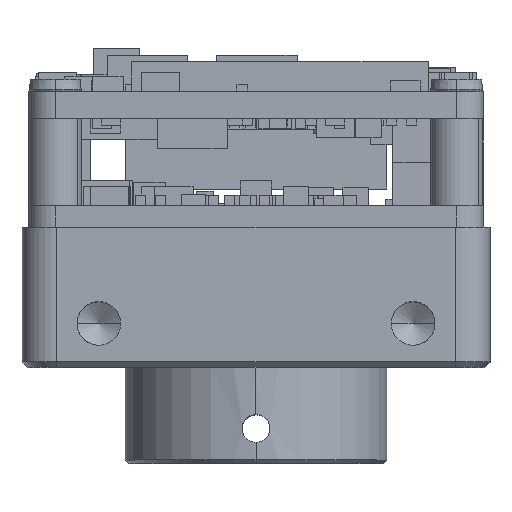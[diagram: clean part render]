
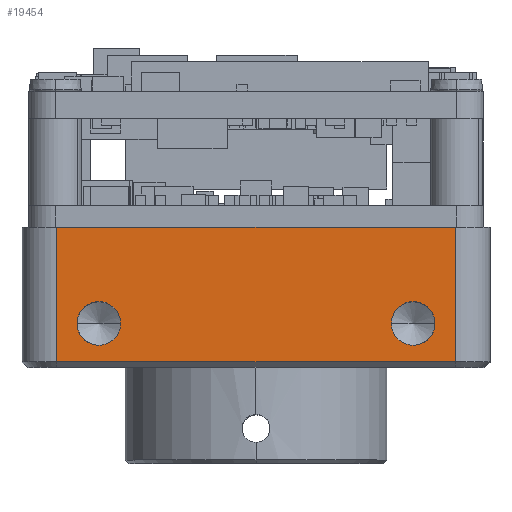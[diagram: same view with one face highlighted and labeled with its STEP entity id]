
A CAD part, top view. The second image highlights one B-rep face of the part: STEP entity #19454.
In plain terms, the highlighted planar face has unit normal (0, 0, 1).
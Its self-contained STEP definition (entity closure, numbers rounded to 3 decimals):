
#3181 = VECTOR ( 'NONE', #36196, 1000. ) ;
#3589 = EDGE_CURVE ( 'NONE', #35073, #9408, #5402, .T. ) ;
#3856 = EDGE_LOOP ( 'NONE', ( #34701, #58214 ) ) ;
#5402 = CIRCLE ( 'NONE', #30890, 1.25 ) ;
#6481 = AXIS2_PLACEMENT_3D ( 'NONE', #18900, #57363, #7642 ) ;
#6947 = DIRECTION ( 'NONE',  ( 1., 0., 0. ) ) ;
#6958 = EDGE_LOOP ( 'NONE', ( #9797, #40985 ) ) ;
#7642 = DIRECTION ( 'NONE',  ( 1., 0., 0. ) ) ;
#7673 = EDGE_CURVE ( 'NONE', #8409, #9359, #41732, .T. ) ;
#8409 = VERTEX_POINT ( 'NONE', #9865 ) ;
#8833 = VERTEX_POINT ( 'NONE', #62437 ) ;
#9359 = VERTEX_POINT ( 'NONE', #52953 ) ;
#9408 = VERTEX_POINT ( 'NONE', #33273 ) ;
#9779 = AXIS2_PLACEMENT_3D ( 'NONE', #37573, #48863, #54995 ) ;
#9797 = ORIENTED_EDGE ( 'NONE', *, *, #3589, .F. ) ;
#9865 = CARTESIAN_POINT ( 'NONE',  ( -11.4, 0.3, 13.4 ) ) ;
#9998 = ORIENTED_EDGE ( 'NONE', *, *, #7673, .T. ) ;
#10038 = LINE ( 'NONE', #32191, #71404 ) ;
#10397 = CARTESIAN_POINT ( 'NONE',  ( -13.4, 0.3, 13.4 ) ) ;
#11650 = EDGE_LOOP ( 'NONE', ( #28222, #9998, #15122, #58205 ) ) ;
#11740 = CARTESIAN_POINT ( 'NONE',  ( -13.4, 8., 13.4 ) ) ;
#12376 = DIRECTION ( 'NONE',  ( 0., 0., 1. ) ) ;
#14055 = LINE ( 'NONE', #35834, #3181 ) ;
#14520 = EDGE_CURVE ( 'NONE', #44964, #54061, #48820, .T. ) ;
#15122 = ORIENTED_EDGE ( 'NONE', *, *, #48286, .T. ) ;
#16648 = AXIS2_PLACEMENT_3D ( 'NONE', #58485, #26202, #25836 ) ;
#17467 = CARTESIAN_POINT ( 'NONE',  ( -9., 2.5, 13.4 ) ) ;
#18900 = CARTESIAN_POINT ( 'NONE',  ( -9., 2.5, 13.4 ) ) ;
#19454 = ADVANCED_FACE ( 'NONE', ( #44106, #26711, #32490 ), #54304, .F. ) ;
#21300 = DIRECTION ( 'NONE',  ( 0., -1., 0. ) ) ;
#22854 = DIRECTION ( 'NONE',  ( 1., 0., 0. ) ) ;
#25035 = CIRCLE ( 'NONE', #6481, 1.25 ) ;
#25636 = AXIS2_PLACEMENT_3D ( 'NONE', #50113, #60960, #22854 ) ;
#25836 = DIRECTION ( 'NONE',  ( 1., 0., 0. ) ) ;
#26025 = EDGE_CURVE ( 'NONE', #8833, #69741, #56034, .T. ) ;
#26202 = DIRECTION ( 'NONE',  ( 0., 0., 1. ) ) ;
#26711 = FACE_OUTER_BOUND ( 'NONE', #11650, .T. ) ;
#28222 = ORIENTED_EDGE ( 'NONE', *, *, #65092, .T. ) ;
#29249 = CARTESIAN_POINT ( 'NONE',  ( 11.4, 8., 13.4 ) ) ;
#29509 = VECTOR ( 'NONE', #50990, 1000. ) ;
#30890 = AXIS2_PLACEMENT_3D ( 'NONE', #17467, #12376, #6947 ) ;
#32191 = CARTESIAN_POINT ( 'NONE',  ( -11.4, 8., 13.4 ) ) ;
#32490 = FACE_BOUND ( 'NONE', #6958, .T. ) ;
#33273 = CARTESIAN_POINT ( 'NONE',  ( -10.25, 2.5, 13.4 ) ) ;
#34701 = ORIENTED_EDGE ( 'NONE', *, *, #14520, .F. ) ;
#35073 = VERTEX_POINT ( 'NONE', #43475 ) ;
#35168 = CIRCLE ( 'NONE', #16648, 1.25 ) ;
#35834 = CARTESIAN_POINT ( 'NONE',  ( 11.4, 8., 13.4 ) ) ;
#36196 = DIRECTION ( 'NONE',  ( 0., 1., 0. ) ) ;
#37573 = CARTESIAN_POINT ( 'NONE',  ( -13.4, 8., 13.4 ) ) ;
#38703 = DIRECTION ( 'NONE',  ( 1., 0., 0. ) ) ;
#40985 = ORIENTED_EDGE ( 'NONE', *, *, #46664, .F. ) ;
#41732 = LINE ( 'NONE', #10397, #42698 ) ;
#41878 = EDGE_CURVE ( 'NONE', #54061, #44964, #35168, .T. ) ;
#42698 = VECTOR ( 'NONE', #38703, 1000. ) ;
#43475 = CARTESIAN_POINT ( 'NONE',  ( -7.75, 2.5, 13.4 ) ) ;
#44106 = FACE_BOUND ( 'NONE', #3856, .T. ) ;
#44964 = VERTEX_POINT ( 'NONE', #54107 ) ;
#46664 = EDGE_CURVE ( 'NONE', #9408, #35073, #25035, .T. ) ;
#48286 = EDGE_CURVE ( 'NONE', #9359, #69741, #14055, .T. ) ;
#48820 = CIRCLE ( 'NONE', #25636, 1.25 ) ;
#48863 = DIRECTION ( 'NONE',  ( 0., 0., -1. ) ) ;
#50113 = CARTESIAN_POINT ( 'NONE',  ( 9., 2.5, 13.4 ) ) ;
#50990 = DIRECTION ( 'NONE',  ( 1., 0., 0. ) ) ;
#52953 = CARTESIAN_POINT ( 'NONE',  ( 11.4, 0.3, 13.4 ) ) ;
#54061 = VERTEX_POINT ( 'NONE', #64397 ) ;
#54107 = CARTESIAN_POINT ( 'NONE',  ( 10.25, 2.5, 13.4 ) ) ;
#54304 = PLANE ( 'NONE',  #9779 ) ;
#54995 = DIRECTION ( 'NONE',  ( -1., 0., 0. ) ) ;
#56034 = LINE ( 'NONE', #11740, #29509 ) ;
#57363 = DIRECTION ( 'NONE',  ( 0., 0., 1. ) ) ;
#58205 = ORIENTED_EDGE ( 'NONE', *, *, #26025, .F. ) ;
#58214 = ORIENTED_EDGE ( 'NONE', *, *, #41878, .F. ) ;
#58485 = CARTESIAN_POINT ( 'NONE',  ( 9., 2.5, 13.4 ) ) ;
#60960 = DIRECTION ( 'NONE',  ( 0., 0., 1. ) ) ;
#62437 = CARTESIAN_POINT ( 'NONE',  ( -11.4, 8., 13.4 ) ) ;
#64397 = CARTESIAN_POINT ( 'NONE',  ( 7.75, 2.5, 13.4 ) ) ;
#65092 = EDGE_CURVE ( 'NONE', #8833, #8409, #10038, .T. ) ;
#69741 = VERTEX_POINT ( 'NONE', #29249 ) ;
#71404 = VECTOR ( 'NONE', #21300, 1000. ) ;
